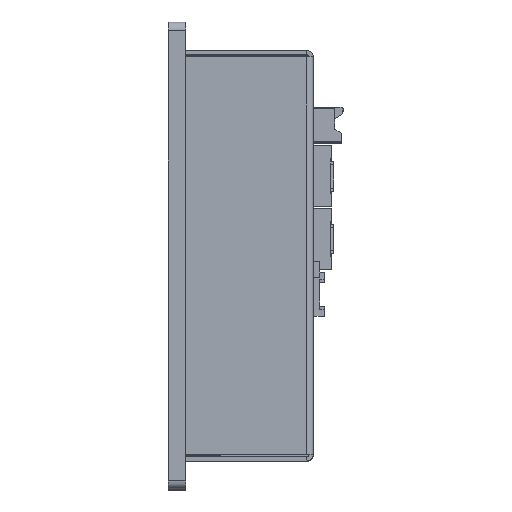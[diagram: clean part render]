
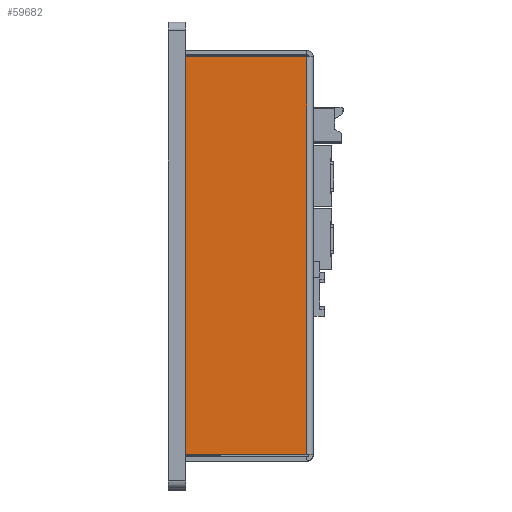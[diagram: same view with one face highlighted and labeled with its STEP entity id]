
A CAD part, top view. The second image highlights one B-rep face of the part: STEP entity #59682.
In plain terms, the highlighted planar face has unit normal (0, 0, 1) as drawn and (0, 0, -1) by its records, which use the part's own axes.
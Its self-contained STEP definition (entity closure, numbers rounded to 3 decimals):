
#57785=DIRECTION('',(1.,0.,0.));
#57786=VECTOR('',#57785,91.);
#57787=CARTESIAN_POINT('',(-45.5,-0.5,-38.5));
#57788=LINE('',#57787,#57786);
#57803=DIRECTION('',(0.,-1.,0.));
#57804=VECTOR('',#57803,27.7);
#57805=CARTESIAN_POINT('',(45.5,-0.5,-38.5));
#57806=LINE('',#57805,#57804);
#57807=DIRECTION('',(0.,1.,0.));
#57808=VECTOR('',#57807,27.7);
#57809=CARTESIAN_POINT('',(-45.5,-28.2,-38.5));
#57810=LINE('',#57809,#57808);
#57811=DIRECTION('',(-1.,0.,0.));
#57812=VECTOR('',#57811,91.);
#57813=CARTESIAN_POINT('',(45.5,-28.2,-38.5));
#57814=LINE('',#57813,#57812);
#58351=CARTESIAN_POINT('',(45.5,-0.5,-38.5));
#58352=CARTESIAN_POINT('',(45.5,-28.2,-38.5));
#58353=VERTEX_POINT('',#58351);
#58354=VERTEX_POINT('',#58352);
#58355=CARTESIAN_POINT('',(-45.5,-28.2,-38.5));
#58356=VERTEX_POINT('',#58355);
#58357=CARTESIAN_POINT('',(-45.5,-0.5,-38.5));
#58358=VERTEX_POINT('',#58357);
#59668=CARTESIAN_POINT('',(45.5,1.,-38.5));
#59669=DIRECTION('',(0.,0.,-1.));
#59670=DIRECTION('',(1.,0.,0.));
#59671=AXIS2_PLACEMENT_3D('',#59668,#59669,#59670);
#59672=PLANE('',#59671);
#59674=ORIENTED_EDGE('',*,*,#59673,.F.);
#59675=ORIENTED_EDGE('',*,*,#59659,.F.);
#59677=ORIENTED_EDGE('',*,*,#59676,.F.);
#59679=ORIENTED_EDGE('',*,*,#59678,.F.);
#59680=EDGE_LOOP('',(#59674,#59675,#59677,#59679));
#59681=FACE_OUTER_BOUND('',#59680,.F.);
#59682=ADVANCED_FACE('',(#59681),#59672,.T.);
#59659=EDGE_CURVE('',#58358,#58353,#57788,.T.);
#59673=EDGE_CURVE('',#58353,#58354,#57806,.T.);
#59676=EDGE_CURVE('',#58356,#58358,#57810,.T.);
#59678=EDGE_CURVE('',#58354,#58356,#57814,.T.);
